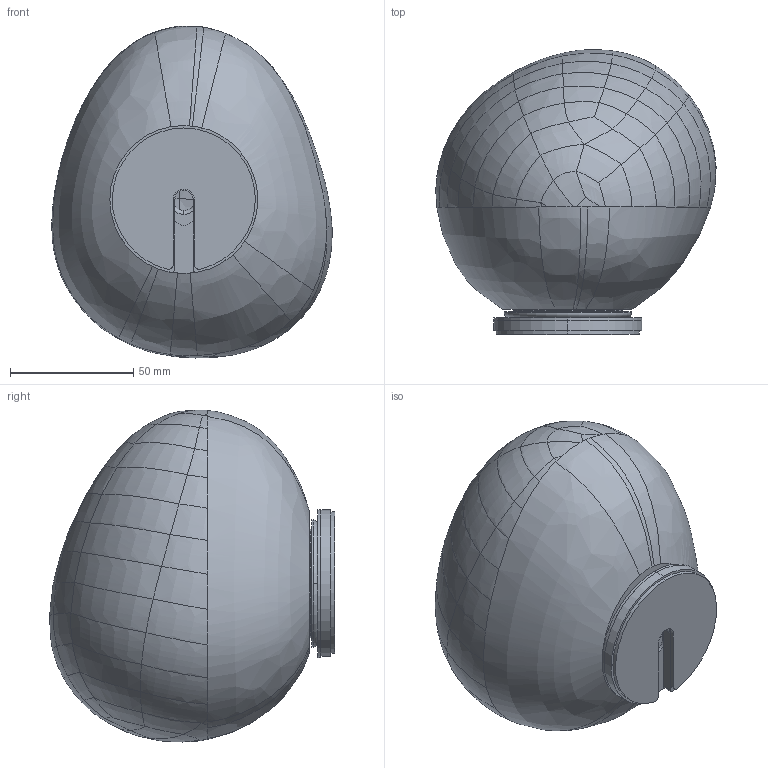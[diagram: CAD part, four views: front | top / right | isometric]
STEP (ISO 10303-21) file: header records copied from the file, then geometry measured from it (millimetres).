
FILE_DESCRIPTION (( 'STEP AP203' ), '1' );
FILE_NAME ('168_PICCOLA_T_PL_3D.STEP', '2021-03-31T08:57:15', ( '' ), ( '' ), 'SwSTEP 2.0', 'SolidWorks 2021', '' );
FILE_SCHEMA (( 'CONFIG_CONTROL_DESIGN' ));
Products named in the file (1): 168_PICCOLA_T_PL_3D
Bounding box: 113.61 x 115.56 x 134.62 mm (x, y, z)
Volume: 72008.9 mm3; surface area: 108846.1 mm2
Topology: 6 solids, 6 shells, 427 faces, 1020 edges, 603 vertices
Faces by surface type: bspline 233, cylinder 81, torus 77, plane 21, cone 15
Entity records: 196951 total; most frequent: CARTESIAN_POINT 188597, ORIENTED_EDGE 2030, DIRECTION 1179, EDGE_CURVE 1015, VERTEX_POINT 603, B_SPLINE_CURVE_WITH_KNOTS 556, AXIS2_PLACEMENT_3D 533, EDGE_LOOP 466
